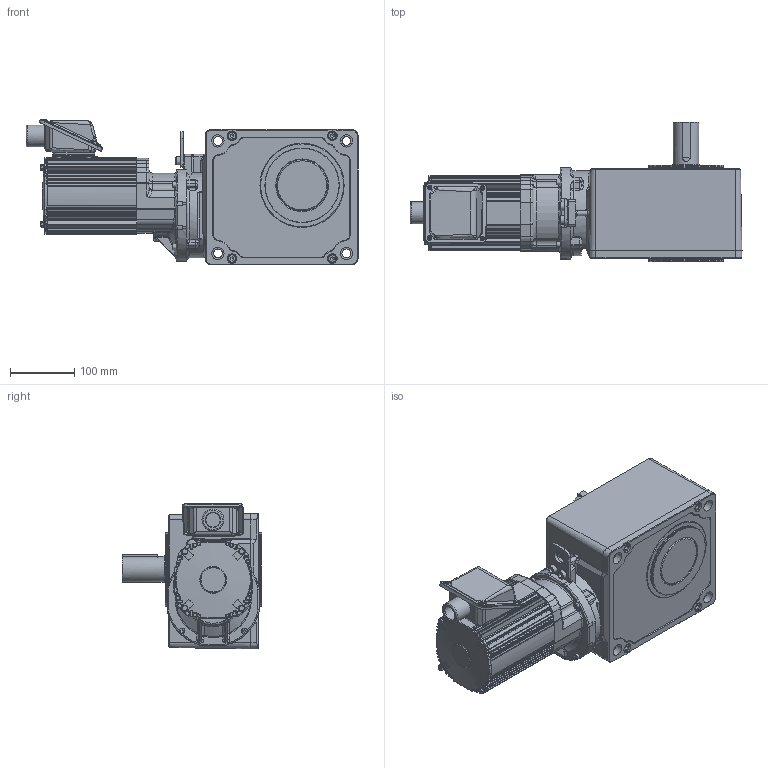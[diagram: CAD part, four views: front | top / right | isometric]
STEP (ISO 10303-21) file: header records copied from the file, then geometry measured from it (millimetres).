
FILE_DESCRIPTION( ( 'Unknown' ), '1' );
FILE_NAME( 'W:/gm/3D-WEB/GV-SHY/完成品/パーツ/完成品/完成品(GV-SHY_ﾌｪｰｽﾏｳﾝﾄ取付_0.75kW_ﾌﾞﾚｰｷ無_D).stp', 'Unknown', ( 'Unknown' ), ( 'Unknown' ), 'PSStep 11.0', 'Unknown', ' ' );
FILE_SCHEMA( ( 'AUTOMOTIVE_DESIGN { 1 0 10303 214 1 1 1 1 }' ) );
Length unit declared in the file: millimetre
Products named in the file (3): 六角穴付ボルト
Bounding box: 516.59 x 217 x 227.08 mm (x, y, z)
Volume: 819826 mm3; surface area: 705765.1 mm2
Topology: 19 solids, 26 shells, 2372 faces, 5891 edges, 3624 vertices
Faces by surface type: plane 924, cylinder 749, bspline 275, torus 259, cone 136, sphere 29
Full cylindrical faces by diameter (mm): 3.3 x4, 3.8 x4, 4 x2, 4.134 x16, 4.5 x8, 4.6 x4, 4.917 x1, 5 x4, 5.5 x4, 5.8 x4, 6 x4, 6.2 x1, 6.647 x6, 7 x4, 8 x8, 8.5 x6, 8.8 x4, 9.7 x4, 10 x3, 13 x6, 13.835 x4, 15 x5, 16 x1, 19 x4, 20 x1, 22 x1, 24.117 x2, 34 x1, 40 x1, 42 x2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
Entity records: 137421 total; most frequent: CARTESIAN_POINT 64765, DIRECTION 11403, ORIENTED_EDGE 10954, EDGE_CURVE 5477, AXIS2_PLACEMENT_3D 4615, VERTEX_POINT 3502, EDGE_LOOP 2734, FACE_OUTER_BOUND 2549
